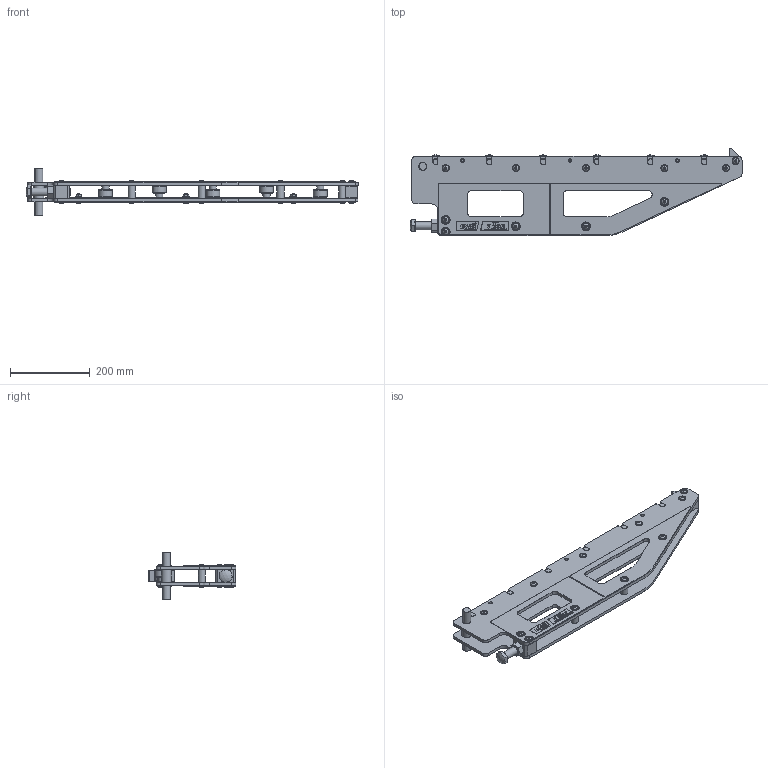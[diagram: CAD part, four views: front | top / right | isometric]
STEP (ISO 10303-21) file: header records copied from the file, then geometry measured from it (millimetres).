
FILE_DESCRIPTION(/* description */ ('CONSOLE PLATE'),/* implementation_level */ '2;1');
FILE_NAME(/* name */ 'C:\Users\jaccow\AppData\Local\Temp\Cadac\NetworkPub\step\FB900-950.iam.stp',/* time_stamp */ '2017-12-14T11:49:49+01:00',/* author */ ('Yue'),/* organization */ (''),/* preprocessor_version */ 'ST-DEVELOPER v16.1',/* originating_system */ 'Autodesk Inventor 2016',/* authorisation */ '');
FILE_SCHEMA (('AUTOMOTIVE_DESIGN { 1 0 10303 214 3 1 1 }'));
Products named in the file (17): FB901-101; FB756-104; FB751-186; FB755-104; FB754-044; FB757-690; CBE1200-1201D; DQ1509-028; FB627-104; DQ1504-281; FB662-101; CCE820-028-9A; FB902-026; FB903-026; CAE1080-1081A; CBB1080-1201D; FB900-950
Assembly tree (62 placements, depth 2):
  FB900-950
    FB901-101  x2
    FB756-104
    FB751-186  x8
    FB755-104
    FB754-044
    FB757-690
    CBE1200-1201D
    DQ1509-028
    FB627-104  x6
    DQ1504-281  x6
    FB662-101
    CCE820-028-9A  x25
    FB902-026
    FB903-026
    CAE1080-1081A  x3
    CBB1080-1201D  x3
Bounding box: 834.78 x 220.17 x 120 mm (x, y, z)
Volume: 2332513.6 mm3; surface area: 912687.4 mm2
Topology: 88 solids, 88 shells, 3254 faces, 7943 edges, 5170 vertices
Faces by surface type: plane 1911, bspline 592, cylinder 358, cone 295, torus 97, sphere 1
Full cylindrical faces by diameter (mm): 1.215 x6, 2.4 x6, 6.647 x14, 8 x25, 8.4 x3, 9 x26, 11 x3, 11.95 x1, 12 x2, 12.1 x1, 15 x12, 17 x3, 17.294 x2, 17.8 x25, 18 x14, 18.6 x6, 20 x5, 22 x8, 23.4 x6, 25 x1, 27.6 x24, 30 x1, 35 x6
Entity records: 73419 total; most frequent: CARTESIAN_POINT 21361, ORIENTED_EDGE 11556, DIRECTION 8426, EDGE_CURVE 5769, LINE 4220, VECTOR 4220, VERTEX_POINT 3884, EDGE_LOOP 2622
